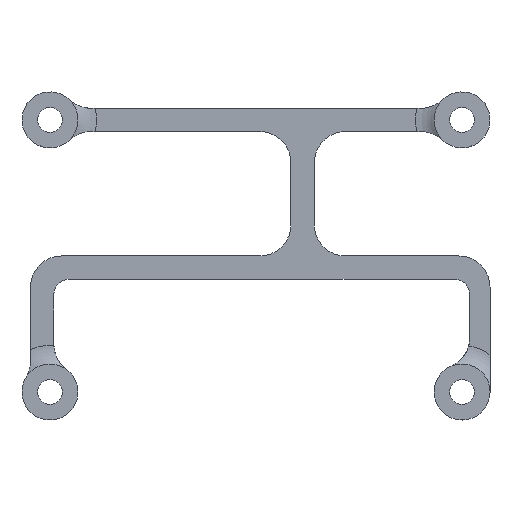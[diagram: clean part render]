
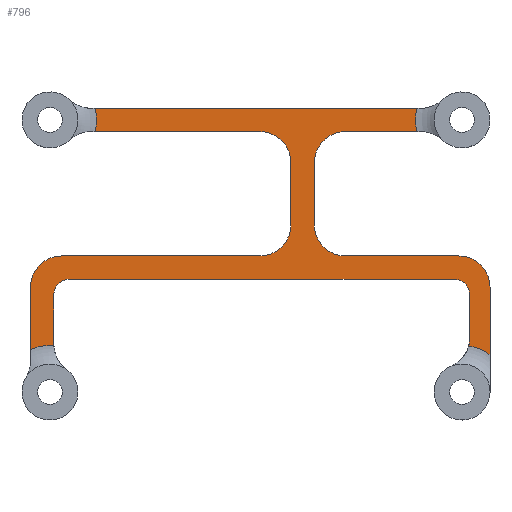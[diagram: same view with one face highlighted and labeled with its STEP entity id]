
A CAD part, top view. The second image highlights one B-rep face of the part: STEP entity #796.
In plain terms, the highlighted planar face has unit normal (0, 0, 1).
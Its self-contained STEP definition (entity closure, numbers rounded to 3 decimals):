
#54=LINE('',#1239,#113);
#55=LINE('',#1243,#114);
#56=LINE('',#1247,#115);
#57=LINE('',#1251,#116);
#58=LINE('',#1255,#117);
#59=LINE('',#1259,#118);
#60=LINE('',#1263,#119);
#61=LINE('',#1267,#120);
#62=LINE('',#1271,#121);
#63=LINE('',#1277,#122);
#64=LINE('',#1281,#123);
#65=LINE('',#1285,#124);
#113=VECTOR('',#963,10.);
#114=VECTOR('',#966,10.);
#115=VECTOR('',#969,10.);
#116=VECTOR('',#972,10.);
#117=VECTOR('',#975,10.);
#118=VECTOR('',#978,10.);
#119=VECTOR('',#981,10.);
#120=VECTOR('',#984,10.);
#121=VECTOR('',#987,10.);
#122=VECTOR('',#992,10.);
#123=VECTOR('',#995,10.);
#124=VECTOR('',#998,10.);
#172=PLANE('',#858);
#191=FACE_OUTER_BOUND('',#236,.T.);
#236=EDGE_LOOP('',(#553,#554,#555,#556,#557,#558,#559,#560,#561,#562,#563,
#564,#565,#566,#567,#568,#569,#570,#571,#572,#573,#574,#575,#576,#577,#578));
#289=CIRCLE('',#857,6.);
#290=CIRCLE('',#859,4.);
#291=CIRCLE('',#860,4.);
#292=CIRCLE('',#861,4.);
#293=CIRCLE('',#862,6.);
#294=CIRCLE('',#863,6.);
#295=CIRCLE('',#864,4.);
#296=CIRCLE('',#865,4.);
#297=CIRCLE('',#866,4.);
#298=CIRCLE('',#867,6.);
#299=CIRCLE('',#868,4.);
#300=CIRCLE('',#869,2.);
#301=CIRCLE('',#870,2.);
#302=CIRCLE('',#871,4.);
#351=VERTEX_POINT('',#1210);
#353=VERTEX_POINT('',#1229);
#354=VERTEX_POINT('',#1238);
#355=VERTEX_POINT('',#1240);
#356=VERTEX_POINT('',#1242);
#357=VERTEX_POINT('',#1244);
#358=VERTEX_POINT('',#1246);
#359=VERTEX_POINT('',#1248);
#360=VERTEX_POINT('',#1250);
#361=VERTEX_POINT('',#1252);
#362=VERTEX_POINT('',#1254);
#363=VERTEX_POINT('',#1256);
#364=VERTEX_POINT('',#1258);
#365=VERTEX_POINT('',#1260);
#366=VERTEX_POINT('',#1262);
#367=VERTEX_POINT('',#1264);
#368=VERTEX_POINT('',#1266);
#369=VERTEX_POINT('',#1268);
#370=VERTEX_POINT('',#1270);
#371=VERTEX_POINT('',#1272);
#372=VERTEX_POINT('',#1274);
#373=VERTEX_POINT('',#1276);
#374=VERTEX_POINT('',#1278);
#375=VERTEX_POINT('',#1280);
#376=VERTEX_POINT('',#1282);
#377=VERTEX_POINT('',#1284);
#431=EDGE_CURVE('',#353,#351,#289,.T.);
#432=EDGE_CURVE('',#353,#354,#54,.T.);
#433=EDGE_CURVE('',#354,#355,#290,.T.);
#434=EDGE_CURVE('',#355,#356,#55,.T.);
#435=EDGE_CURVE('',#356,#357,#291,.T.);
#436=EDGE_CURVE('',#357,#358,#56,.T.);
#437=EDGE_CURVE('',#358,#359,#292,.T.);
#438=EDGE_CURVE('',#359,#360,#57,.T.);
#439=EDGE_CURVE('',#361,#360,#293,.T.);
#440=EDGE_CURVE('',#361,#362,#58,.T.);
#441=EDGE_CURVE('',#363,#362,#294,.T.);
#442=EDGE_CURVE('',#363,#364,#59,.T.);
#443=EDGE_CURVE('',#364,#365,#295,.T.);
#444=EDGE_CURVE('',#365,#366,#60,.T.);
#445=EDGE_CURVE('',#366,#367,#296,.T.);
#446=EDGE_CURVE('',#367,#368,#61,.T.);
#447=EDGE_CURVE('',#368,#369,#297,.T.);
#448=EDGE_CURVE('',#369,#370,#62,.T.);
#449=EDGE_CURVE('',#371,#370,#298,.T.);
#450=EDGE_CURVE('',#372,#371,#299,.T.);
#451=EDGE_CURVE('',#372,#373,#63,.T.);
#452=EDGE_CURVE('',#373,#374,#300,.T.);
#453=EDGE_CURVE('',#374,#375,#64,.T.);
#454=EDGE_CURVE('',#375,#376,#301,.T.);
#455=EDGE_CURVE('',#376,#377,#65,.T.);
#456=EDGE_CURVE('',#351,#377,#302,.T.);
#553=ORIENTED_EDGE('',*,*,#431,.F.);
#554=ORIENTED_EDGE('',*,*,#432,.T.);
#555=ORIENTED_EDGE('',*,*,#433,.T.);
#556=ORIENTED_EDGE('',*,*,#434,.T.);
#557=ORIENTED_EDGE('',*,*,#435,.T.);
#558=ORIENTED_EDGE('',*,*,#436,.T.);
#559=ORIENTED_EDGE('',*,*,#437,.T.);
#560=ORIENTED_EDGE('',*,*,#438,.T.);
#561=ORIENTED_EDGE('',*,*,#439,.F.);
#562=ORIENTED_EDGE('',*,*,#440,.T.);
#563=ORIENTED_EDGE('',*,*,#441,.F.);
#564=ORIENTED_EDGE('',*,*,#442,.T.);
#565=ORIENTED_EDGE('',*,*,#443,.T.);
#566=ORIENTED_EDGE('',*,*,#444,.T.);
#567=ORIENTED_EDGE('',*,*,#445,.T.);
#568=ORIENTED_EDGE('',*,*,#446,.T.);
#569=ORIENTED_EDGE('',*,*,#447,.T.);
#570=ORIENTED_EDGE('',*,*,#448,.T.);
#571=ORIENTED_EDGE('',*,*,#449,.F.);
#572=ORIENTED_EDGE('',*,*,#450,.F.);
#573=ORIENTED_EDGE('',*,*,#451,.T.);
#574=ORIENTED_EDGE('',*,*,#452,.T.);
#575=ORIENTED_EDGE('',*,*,#453,.T.);
#576=ORIENTED_EDGE('',*,*,#454,.T.);
#577=ORIENTED_EDGE('',*,*,#455,.T.);
#578=ORIENTED_EDGE('',*,*,#456,.F.);
#796=ADVANCED_FACE('',(#191),#172,.T.);
#857=AXIS2_PLACEMENT_3D('',#1236,#959,#960);
#858=AXIS2_PLACEMENT_3D('',#1237,#961,#962);
#859=AXIS2_PLACEMENT_3D('',#1241,#964,#965);
#860=AXIS2_PLACEMENT_3D('',#1245,#967,#968);
#861=AXIS2_PLACEMENT_3D('',#1249,#970,#971);
#862=AXIS2_PLACEMENT_3D('',#1253,#973,#974);
#863=AXIS2_PLACEMENT_3D('',#1257,#976,#977);
#864=AXIS2_PLACEMENT_3D('',#1261,#979,#980);
#865=AXIS2_PLACEMENT_3D('',#1265,#982,#983);
#866=AXIS2_PLACEMENT_3D('',#1269,#985,#986);
#867=AXIS2_PLACEMENT_3D('',#1273,#988,#989);
#868=AXIS2_PLACEMENT_3D('',#1275,#990,#991);
#869=AXIS2_PLACEMENT_3D('',#1279,#993,#994);
#870=AXIS2_PLACEMENT_3D('',#1283,#996,#997);
#871=AXIS2_PLACEMENT_3D('',#1286,#999,#1000);
#959=DIRECTION('center_axis',(0.,0.,1.));
#960=DIRECTION('ref_axis',(-0.308,-0.951,0.));
#961=DIRECTION('center_axis',(0.,0.,1.));
#962=DIRECTION('ref_axis',(1.,0.,0.));
#963=DIRECTION('',(0.,1.,0.));
#964=DIRECTION('center_axis',(0.,0.,1.));
#965=DIRECTION('ref_axis',(1.,0.,0.));
#966=DIRECTION('',(-1.,0.,0.));
#967=DIRECTION('center_axis',(0.,0.,-1.));
#968=DIRECTION('ref_axis',(-1.,0.,0.));
#969=DIRECTION('',(0.,1.,0.));
#970=DIRECTION('center_axis',(0.,0.,-1.));
#971=DIRECTION('ref_axis',(0.,1.,0.));
#972=DIRECTION('',(1.,0.,0.));
#973=DIRECTION('center_axis',(0.,0.,1.));
#974=DIRECTION('ref_axis',(1.,0.,0.));
#975=DIRECTION('',(-1.,0.,0.));
#976=DIRECTION('center_axis',(0.,0.,1.));
#977=DIRECTION('ref_axis',(-1.,0.,0.));
#978=DIRECTION('',(1.,0.,0.));
#979=DIRECTION('center_axis',(0.,0.,-1.));
#980=DIRECTION('ref_axis',(1.,0.,0.));
#981=DIRECTION('',(0.,-1.,0.));
#982=DIRECTION('center_axis',(0.,0.,-1.));
#983=DIRECTION('ref_axis',(0.,-1.,0.));
#984=DIRECTION('',(-1.,0.,0.));
#985=DIRECTION('center_axis',(0.,0.,1.));
#986=DIRECTION('ref_axis',(0.,1.,0.));
#987=DIRECTION('',(0.,-1.,0.));
#988=DIRECTION('center_axis',(0.,0.,1.));
#989=DIRECTION('ref_axis',(0.135,-0.991,0.));
#990=DIRECTION('center_axis',(0.,0.,1.));
#991=DIRECTION('ref_axis',(-0.892,-0.452,0.));
#992=DIRECTION('',(0.,1.,0.));
#993=DIRECTION('center_axis',(0.,0.,-1.));
#994=DIRECTION('ref_axis',(0.,1.,0.));
#995=DIRECTION('',(1.,0.,0.));
#996=DIRECTION('center_axis',(0.,0.,-1.));
#997=DIRECTION('ref_axis',(1.,0.,0.));
#998=DIRECTION('',(0.,-1.,0.));
#999=DIRECTION('center_axis',(0.,0.,1.));
#1000=DIRECTION('ref_axis',(0.835,-0.55,0.));
#1210=CARTESIAN_POINT('',(27.361,-11.562,1.6));
#1229=CARTESIAN_POINT('',(30.1,-12.7,1.6));
#1236=CARTESIAN_POINT('Origin',(26.5,-17.5,1.6));
#1237=CARTESIAN_POINT('Origin',(0.,0.,
1.6));
#1238=CARTESIAN_POINT('',(30.1,-4.,1.6));
#1239=CARTESIAN_POINT('',(30.1,-17.5,1.6));
#1240=CARTESIAN_POINT('',(26.1,0.,1.6));
#1241=CARTESIAN_POINT('Origin',(26.1,-4.,1.6));
#1242=CARTESIAN_POINT('',(11.5,0.,1.6));
#1243=CARTESIAN_POINT('',(11.5,0.,1.6));
#1244=CARTESIAN_POINT('',(7.5,4.,1.6));
#1245=CARTESIAN_POINT('Origin',(11.5,4.,1.6));
#1246=CARTESIAN_POINT('',(7.5,12.,1.6));
#1247=CARTESIAN_POINT('',(7.5,12.,1.6));
#1248=CARTESIAN_POINT('',(11.5,16.,1.6));
#1249=CARTESIAN_POINT('Origin',(11.5,12.,1.6));
#1250=CARTESIAN_POINT('',(20.691,16.,1.6));
#1251=CARTESIAN_POINT('',(11.5,16.,1.6));
#1252=CARTESIAN_POINT('',(20.691,19.,1.6));
#1253=CARTESIAN_POINT('Origin',(26.5,17.5,1.6));
#1254=CARTESIAN_POINT('',(-20.691,19.,1.6));
#1255=CARTESIAN_POINT('',(-23.227,19.,1.6));
#1256=CARTESIAN_POINT('',(-20.691,16.,1.6));
#1257=CARTESIAN_POINT('Origin',(-26.5,17.5,1.6));
#1258=CARTESIAN_POINT('',(0.5,16.,1.6));
#1259=CARTESIAN_POINT('',(-23.227,16.,1.6));
#1260=CARTESIAN_POINT('',(4.5,12.,1.6));
#1261=CARTESIAN_POINT('Origin',(0.5,12.,1.6));
#1262=CARTESIAN_POINT('',(4.5,4.,1.6));
#1263=CARTESIAN_POINT('',(4.5,12.,1.6));
#1264=CARTESIAN_POINT('',(0.5,0.,1.6));
#1265=CARTESIAN_POINT('Origin',(0.5,4.,1.6));
#1266=CARTESIAN_POINT('',(-25.,0.,1.6));
#1267=CARTESIAN_POINT('',(-25.,0.,1.6));
#1268=CARTESIAN_POINT('',(-29.,-4.,1.6));
#1269=CARTESIAN_POINT('Origin',(-25.,-4.,1.6));
#1270=CARTESIAN_POINT('',(-29.,-12.046,1.6));
#1271=CARTESIAN_POINT('',(-29.,-14.91,1.6));
#1272=CARTESIAN_POINT('',(-25.997,-11.521,1.6));
#1273=CARTESIAN_POINT('Origin',(-26.5,-17.5,1.6));
#1274=CARTESIAN_POINT('',(-26.,-11.375,1.6));
#1275=CARTESIAN_POINT('Origin',(-22.,-11.375,1.6));
#1276=CARTESIAN_POINT('',(-26.,-5.,1.6));
#1277=CARTESIAN_POINT('',(-26.,-13.935,1.6));
#1278=CARTESIAN_POINT('',(-24.,-3.,1.6));
#1279=CARTESIAN_POINT('Origin',(-24.,-5.,1.6));
#1280=CARTESIAN_POINT('',(25.5,-3.,1.6));
#1281=CARTESIAN_POINT('',(-24.,-3.,1.6));
#1282=CARTESIAN_POINT('',(27.5,-5.,1.6));
#1283=CARTESIAN_POINT('Origin',(25.5,-5.,1.6));
#1284=CARTESIAN_POINT('',(27.5,-10.517,1.6));
#1285=CARTESIAN_POINT('',(27.5,-5.,1.6));
#1286=CARTESIAN_POINT('Origin',(23.5,-10.517,1.6));
